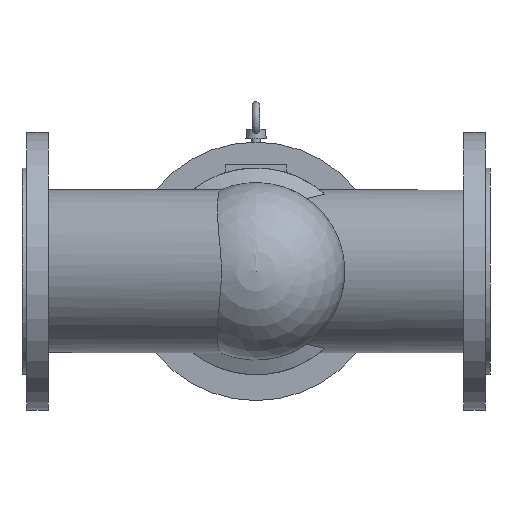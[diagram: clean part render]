
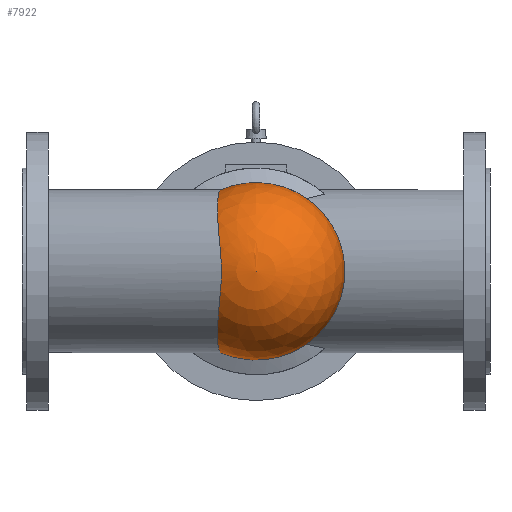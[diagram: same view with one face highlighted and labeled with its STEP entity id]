
A CAD part, front view. The second image highlights one B-rep face of the part: STEP entity #7922.
In plain terms, the highlighted spherical face has radius 91 mm.
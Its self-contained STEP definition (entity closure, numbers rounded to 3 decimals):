
#14=SPHERICAL_SURFACE('',#8416,91.);
#2450=FACE_OUTER_BOUND('',#2940,.T.);
#2940=EDGE_LOOP('',(#7096,#7097,#7098,#7099,#7100,#7101));
#3008=CIRCLE('',#8255,91.);
#3009=CIRCLE('',#8256,91.);
#3067=CIRCLE('',#8417,91.);
#3227=B_SPLINE_CURVE_WITH_KNOTS('',3,(#13470,#13471,#13472,#13473,#13474,
#13475,#13476,#13477,#13478,#13479,#13480,#13481,#13482,#13483,#13484,#13485,
#13486,#13487,#13488,#13489),.UNSPECIFIED.,.F.,.F.,(4,2,2,2,2,2,2,2,2,4),
(0.,0.795,1.591,3.182,4.773,
6.364,7.993,9.622,11.252,12.493),
 .UNSPECIFIED.);
#3228=B_SPLINE_CURVE_WITH_KNOTS('',3,(#13490,#13491,#13492,#13493,#13494,
#13495,#13496,#13497,#13498,#13499,#13500,#13501,#13502,#13503,#13504,#13505,
#13506,#13507,#13508,#13509),.UNSPECIFIED.,.F.,.F.,(4,2,2,2,2,2,2,2,2,4),
(-12.493,-11.252,-9.622,-7.993,
-6.364,-4.773,-3.182,-1.591,
-0.795,0.),.UNSPECIFIED.);
#3768=VERTEX_POINT('',#13201);
#3769=VERTEX_POINT('',#13202);
#3770=VERTEX_POINT('',#13204);
#3813=VERTEX_POINT('',#13469);
#3936=VERTEX_POINT('',#13911);
#4743=EDGE_CURVE('',#3768,#3769,#3008,.T.);
#4744=EDGE_CURVE('',#3769,#3770,#3009,.T.);
#4806=EDGE_CURVE('',#3813,#3770,#3227,.T.);
#4807=EDGE_CURVE('',#3768,#3813,#3228,.T.);
#4996=EDGE_CURVE('',#3769,#3936,#3067,.T.);
#7096=ORIENTED_EDGE('',*,*,#4806,.T.);
#7097=ORIENTED_EDGE('',*,*,#4744,.F.);
#7098=ORIENTED_EDGE('',*,*,#4996,.T.);
#7099=ORIENTED_EDGE('',*,*,#4996,.F.);
#7100=ORIENTED_EDGE('',*,*,#4743,.F.);
#7101=ORIENTED_EDGE('',*,*,#4807,.T.);
#7922=ADVANCED_FACE('',(#2450),#14,.T.);
#8255=AXIS2_PLACEMENT_3D('',#13203,#9614,#9615);
#8256=AXIS2_PLACEMENT_3D('',#13205,#9616,#9617);
#8416=AXIS2_PLACEMENT_3D('',#13910,#10114,#10115);
#8417=AXIS2_PLACEMENT_3D('',#13912,#10116,#10117);
#9614=DIRECTION('center_axis',(0.,1.,0.));
#9615=DIRECTION('ref_axis',(1.,0.,0.));
#9616=DIRECTION('center_axis',(0.,1.,0.));
#9617=DIRECTION('ref_axis',(1.,0.,0.));
#10114=DIRECTION('center_axis',(0.,1.,0.));
#10115=DIRECTION('ref_axis',(0.,0.,-1.));
#10116=DIRECTION('center_axis',(1.,0.,0.));
#10117=DIRECTION('ref_axis',(0.,0.,1.));
#13201=CARTESIAN_POINT('',(-54.873,-174.279,67.646));
#13202=CARTESIAN_POINT('',(-18.493,-174.279,75.234));
#13203=CARTESIAN_POINT('Origin',(-18.493,-174.279,-15.766));
#13204=CARTESIAN_POINT('',(-54.873,-174.279,-99.178));
#13205=CARTESIAN_POINT('Origin',(-18.493,-174.279,-15.766));
#13469=CARTESIAN_POINT('',(-53.948,-258.088,-15.766));
#13470=CARTESIAN_POINT('Ctrl Pts',(-53.948,-258.088,-15.766));
#13471=CARTESIAN_POINT('Ctrl Pts',(-53.948,-258.088,-18.418));
#13472=CARTESIAN_POINT('Ctrl Pts',(-54.011,-257.935,-21.098));
#13473=CARTESIAN_POINT('Ctrl Pts',(-54.246,-257.318,
-26.47));
#13474=CARTESIAN_POINT('Ctrl Pts',(-54.417,-256.854,-29.162));
#13475=CARTESIAN_POINT('Ctrl Pts',(-55.025,-255.012,
-37.19));
#13476=CARTESIAN_POINT('Ctrl Pts',(-55.545,-253.183,
-42.482));
#13477=CARTESIAN_POINT('Ctrl Pts',(-56.495,-248.503,
-52.631));
#13478=CARTESIAN_POINT('Ctrl Pts',(-56.928,-245.647,
-57.494));
#13479=CARTESIAN_POINT('Ctrl Pts',(-57.581,-239.165,
-66.5));
#13480=CARTESIAN_POINT('Ctrl Pts',(-57.803,-235.536,-70.642));
#13481=CARTESIAN_POINT('Ctrl Pts',(-58.035,-227.798,
-78.077));
#13482=CARTESIAN_POINT('Ctrl Pts',(-58.049,-223.4,
-81.614));
#13483=CARTESIAN_POINT('Ctrl Pts',(-57.846,-213.87,
-87.86));
#13484=CARTESIAN_POINT('Ctrl Pts',(-57.629,-208.737,
-90.568));
#13485=CARTESIAN_POINT('Ctrl Pts',(-56.994,-198.065,
-94.926));
#13486=CARTESIAN_POINT('Ctrl Pts',(-56.576,-192.516,
-96.578));
#13487=CARTESIAN_POINT('Ctrl Pts',(-55.717,-182.705,
-98.49));
#13488=CARTESIAN_POINT('Ctrl Pts',(-55.306,-178.452,-98.989));
#13489=CARTESIAN_POINT('Ctrl Pts',(-54.873,-174.279,
-99.178));
#13490=CARTESIAN_POINT('Ctrl Pts',(-54.873,-174.279,
67.646));
#13491=CARTESIAN_POINT('Ctrl Pts',(-55.306,-178.452,67.457));
#13492=CARTESIAN_POINT('Ctrl Pts',(-55.717,-182.705,
66.957));
#13493=CARTESIAN_POINT('Ctrl Pts',(-56.576,-192.516,
65.045));
#13494=CARTESIAN_POINT('Ctrl Pts',(-56.994,-198.065,
63.393));
#13495=CARTESIAN_POINT('Ctrl Pts',(-57.629,-208.737,59.035));
#13496=CARTESIAN_POINT('Ctrl Pts',(-57.846,-213.87,
56.327));
#13497=CARTESIAN_POINT('Ctrl Pts',(-58.049,-223.4,
50.081));
#13498=CARTESIAN_POINT('Ctrl Pts',(-58.035,-227.798,
46.545));
#13499=CARTESIAN_POINT('Ctrl Pts',(-57.803,-235.536,39.11));
#13500=CARTESIAN_POINT('Ctrl Pts',(-57.581,-239.165,
34.967));
#13501=CARTESIAN_POINT('Ctrl Pts',(-56.928,-245.647,
25.961));
#13502=CARTESIAN_POINT('Ctrl Pts',(-56.495,-248.503,21.098));
#13503=CARTESIAN_POINT('Ctrl Pts',(-55.545,-253.183,
10.95));
#13504=CARTESIAN_POINT('Ctrl Pts',(-55.025,-255.012,
5.658));
#13505=CARTESIAN_POINT('Ctrl Pts',(-54.417,-256.854,-2.371));
#13506=CARTESIAN_POINT('Ctrl Pts',(-54.246,-257.318,
-5.063));
#13507=CARTESIAN_POINT('Ctrl Pts',(-54.011,-257.935,-10.435));
#13508=CARTESIAN_POINT('Ctrl Pts',(-53.948,-258.088,-13.115));
#13509=CARTESIAN_POINT('Ctrl Pts',(-53.948,-258.088,-15.766));
#13910=CARTESIAN_POINT('Origin',(-18.493,-174.279,-15.766));
#13911=CARTESIAN_POINT('',(-18.493,-265.279,-15.766));
#13912=CARTESIAN_POINT('Origin',(-18.493,-174.279,-15.766));
